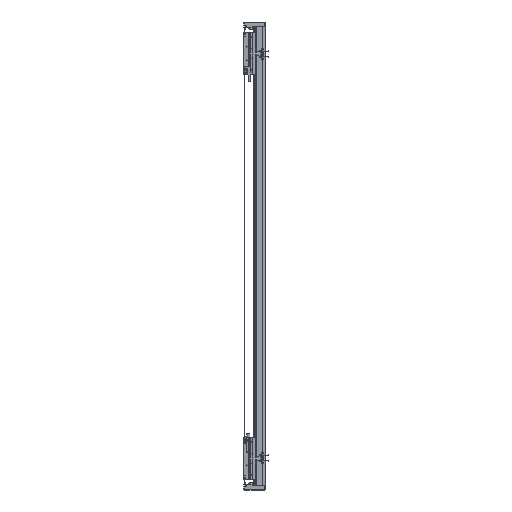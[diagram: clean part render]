
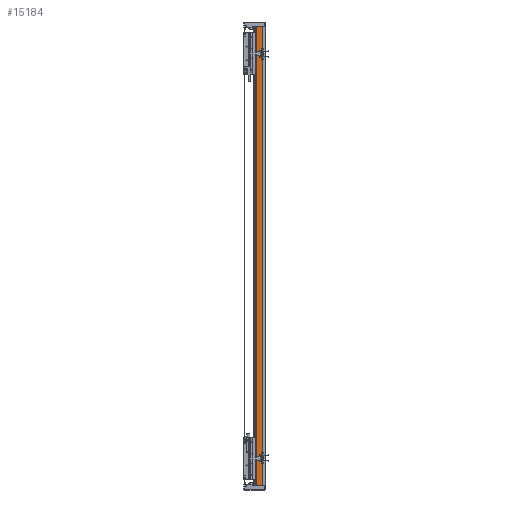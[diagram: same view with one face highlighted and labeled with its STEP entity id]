
A CAD part, left-side view. The second image highlights one B-rep face of the part: STEP entity #15184.
In plain terms, the highlighted planar face has unit normal (-1, 0, 0).
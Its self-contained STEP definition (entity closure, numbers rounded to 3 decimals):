
#2940 = ORIENTED_EDGE ( 'NONE', *, *, #77981, .F. ) ;
#5831 = EDGE_CURVE ( 'NONE', #65371, #32000, #113530, .T. ) ;
#6935 = EDGE_LOOP ( 'NONE', ( #53560, #47861, #2940, #64419 ) ) ;
#7245 = AXIS2_PLACEMENT_3D ( 'NONE', #107068, #79901, #97196 ) ;
#11321 = DIRECTION ( 'NONE',  ( 0., -1., 0. ) ) ;
#13131 = DIRECTION ( 'NONE',  ( 0., -1., 0. ) ) ;
#13151 = CARTESIAN_POINT ( 'NONE',  ( -82.5, 36.95, -1020. ) ) ;
#15134 = EDGE_CURVE ( 'NONE', #100697, #32000, #77443, .T. ) ;
#15184 = ADVANCED_FACE ( 'NONE', ( #89150 ), #31669, .F. ) ;
#31669 = PLANE ( 'NONE',  #7245 ) ;
#32000 = VERTEX_POINT ( 'NONE', #98649 ) ;
#42420 = CARTESIAN_POINT ( 'NONE',  ( -82.5, 36.95, 1020. ) ) ;
#44821 = VERTEX_POINT ( 'NONE', #49308 ) ;
#45739 = VECTOR ( 'NONE', #13131, 1000. ) ;
#47861 = ORIENTED_EDGE ( 'NONE', *, *, #5831, .F. ) ;
#48055 = CARTESIAN_POINT ( 'NONE',  ( -82.5, 14.45, 1020. ) ) ;
#49308 = CARTESIAN_POINT ( 'NONE',  ( -82.5, 36.95, 1020. ) ) ;
#49863 = LINE ( 'NONE', #42420, #65334 ) ;
#53274 = CARTESIAN_POINT ( 'NONE',  ( -82.5, 36.95, 1020. ) ) ;
#53560 = ORIENTED_EDGE ( 'NONE', *, *, #15134, .T. ) ;
#64419 = ORIENTED_EDGE ( 'NONE', *, *, #100520, .T. ) ;
#64661 = VECTOR ( 'NONE', #11321, 1000. ) ;
#65334 = VECTOR ( 'NONE', #78915, 1000. ) ;
#65371 = VERTEX_POINT ( 'NONE', #69113 ) ;
#69113 = CARTESIAN_POINT ( 'NONE',  ( -82.5, 14.45, 1020. ) ) ;
#72036 = VECTOR ( 'NONE', #85747, 1000. ) ;
#77443 = LINE ( 'NONE', #13151, #64661 ) ;
#77981 = EDGE_CURVE ( 'NONE', #44821, #65371, #118166, .T. ) ;
#78915 = DIRECTION ( 'NONE',  ( 0., 0., -1. ) ) ;
#79901 = DIRECTION ( 'NONE',  ( 1., 0., 0. ) ) ;
#85747 = DIRECTION ( 'NONE',  ( 0., 0., -1. ) ) ;
#89150 = FACE_OUTER_BOUND ( 'NONE', #6935, .T. ) ;
#94943 = CARTESIAN_POINT ( 'NONE',  ( -82.5, 36.95, -1020. ) ) ;
#97196 = DIRECTION ( 'NONE',  ( 0., 1., 0. ) ) ;
#98649 = CARTESIAN_POINT ( 'NONE',  ( -82.5, 14.45, -1020. ) ) ;
#100520 = EDGE_CURVE ( 'NONE', #44821, #100697, #49863, .T. ) ;
#100697 = VERTEX_POINT ( 'NONE', #94943 ) ;
#107068 = CARTESIAN_POINT ( 'NONE',  ( -82.5, 36.95, 1020. ) ) ;
#113530 = LINE ( 'NONE', #48055, #72036 ) ;
#118166 = LINE ( 'NONE', #53274, #45739 ) ;
